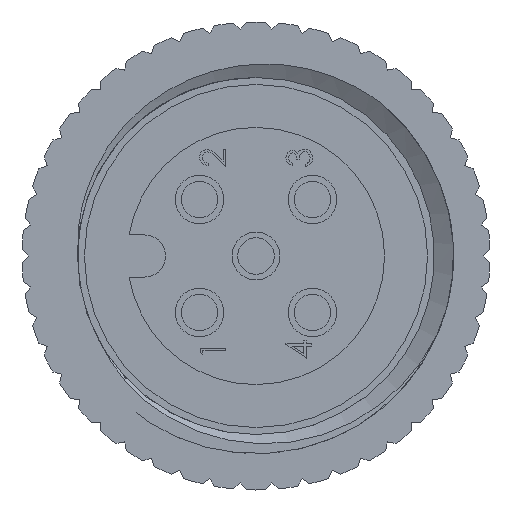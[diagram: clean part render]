
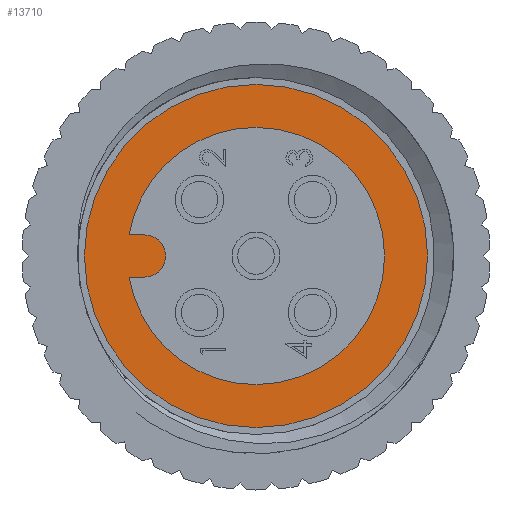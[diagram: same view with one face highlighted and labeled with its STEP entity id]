
A CAD part, left-side view. The second image highlights one B-rep face of the part: STEP entity #13710.
In plain terms, the highlighted planar face has unit normal (-1, 0, 0).
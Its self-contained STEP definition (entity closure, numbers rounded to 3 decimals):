
#1564 = AXIS2_PLACEMENT_3D ( 'NONE', #2381, #2382, #2383 ) ;
#2355 = FACE_OUTER_BOUND ( 'NONE', #10263, .T. ) ;
#2370 = FACE_BOUND ( 'NONE', #10267, .T. ) ;
#2372 = PLANE ( 'NONE',  #1564 ) ;
#2381 = CARTESIAN_POINT ( 'NONE',  ( 8.509, 0., 0. ) ) ;
#2382 = DIRECTION ( 'NONE',  ( -1., 0., 0. ) ) ;
#2383 = DIRECTION ( 'NONE',  ( 0., 0., 1. ) ) ;
#4301 = CARTESIAN_POINT ( 'NONE',  ( 8.509, 0., 5.372 ) ) ;
#4383 = CARTESIAN_POINT ( 'NONE',  ( 8.509, 3.493, -0.66 ) ) ;
#4409 = CARTESIAN_POINT ( 'NONE',  ( 8.509, 3.493, 0.66 ) ) ;
#4410 = CARTESIAN_POINT ( 'NONE',  ( 8.509, 3.971, 0.66 ) ) ;
#5386 = VERTEX_POINT ( 'NONE', #6395 ) ;
#5393 = VERTEX_POINT ( 'NONE', #6399 ) ;
#5395 = VERTEX_POINT ( 'NONE', #6400 ) ;
#6104 = EDGE_CURVE ( 'NONE', #13140, #7108, #11171, .T. ) ;
#6105 = EDGE_CURVE ( 'NONE', #5395, #10480, #9468, .T. ) ;
#6106 = EDGE_CURVE ( 'NONE', #10480, #10521, #11173, .T. ) ;
#6107 = EDGE_CURVE ( 'NONE', #10521, #10523, #9480, .T. ) ;
#6108 = EDGE_CURVE ( 'NONE', #5386, #10523, #11036, .T. ) ;
#6395 = CARTESIAN_POINT ( 'NONE',  ( 8.509, 0., 4.026 ) ) ;
#6399 = CARTESIAN_POINT ( 'NONE',  ( 8.509, 0., -4.026 ) ) ;
#6400 = CARTESIAN_POINT ( 'NONE',  ( 8.509, 3.971, -0.66 ) ) ;
#7108 = VERTEX_POINT ( 'NONE', #4301 ) ;
#8509 = CIRCLE ( 'NONE', #8511, 4.026 ) ;
#8511 = AXIS2_PLACEMENT_3D ( 'NONE', #9489, #9492, #9494 ) ;
#8516 = CIRCLE ( 'NONE', #8518, 4.026 ) ;
#8518 = AXIS2_PLACEMENT_3D ( 'NONE', #9553, #9555, #9558 ) ;
#8565 = CIRCLE ( 'NONE', #8566, 5.372 ) ;
#8566 = AXIS2_PLACEMENT_3D ( 'NONE', #9845, #9847, #9849 ) ;
#9454 = CARTESIAN_POINT ( 'NONE',  ( 8.509, 3.493, -0.66 ) ) ;
#9460 = CARTESIAN_POINT ( 'NONE',  ( 8.509, 3.493, 0.66 ) ) ;
#9468 = LINE ( 'NONE', #9454, #11172 ) ;
#9471 = CARTESIAN_POINT ( 'NONE',  ( 8.509, 0., 0. ) ) ;
#9474 = DIRECTION ( 'NONE',  ( -1., 0., 0. ) ) ;
#9478 = DIRECTION ( 'NONE',  ( 0., 0., 1. ) ) ;
#9480 = LINE ( 'NONE', #9460, #11034 ) ;
#9484 = DIRECTION ( 'NONE',  ( 0., -1., 0. ) ) ;
#9489 = CARTESIAN_POINT ( 'NONE',  ( 8.509, 0., 0. ) ) ;
#9492 = DIRECTION ( 'NONE',  ( -1., 0., 0. ) ) ;
#9494 = DIRECTION ( 'NONE',  ( 0., 0., 1. ) ) ;
#9495 = CARTESIAN_POINT ( 'NONE',  ( 8.509, 3.493, 0. ) ) ;
#9498 = DIRECTION ( 'NONE',  ( -1., 0., 0. ) ) ;
#9500 = DIRECTION ( 'NONE',  ( 0., 0., 1. ) ) ;
#9504 = DIRECTION ( 'NONE',  ( 0., 1., 0. ) ) ;
#9515 = CARTESIAN_POINT ( 'NONE',  ( 8.509, 0., 0. ) ) ;
#9519 = DIRECTION ( 'NONE',  ( -1., 0., 0. ) ) ;
#9523 = DIRECTION ( 'NONE',  ( 0., 0., 1. ) ) ;
#9553 = CARTESIAN_POINT ( 'NONE',  ( 8.509, 0., 0. ) ) ;
#9555 = DIRECTION ( 'NONE',  ( -1., 0., 0. ) ) ;
#9558 = DIRECTION ( 'NONE',  ( 0., 0., 1. ) ) ;
#9845 = CARTESIAN_POINT ( 'NONE',  ( 8.509, 0., 0. ) ) ;
#9847 = DIRECTION ( 'NONE',  ( -1., 0., 0. ) ) ;
#9849 = DIRECTION ( 'NONE',  ( 0., 0., 1. ) ) ;
#10263 = EDGE_LOOP ( 'NONE', ( #14919, #14918 ) ) ;
#10267 = EDGE_LOOP ( 'NONE', ( #14925, #14924, #14923, #14922, #14921, #14920 ) ) ;
#10480 = VERTEX_POINT ( 'NONE', #4383 ) ;
#10521 = VERTEX_POINT ( 'NONE', #4409 ) ;
#10523 = VERTEX_POINT ( 'NONE', #4410 ) ;
#11034 = VECTOR ( 'NONE', #9504, 1000. ) ;
#11035 = AXIS2_PLACEMENT_3D ( 'NONE', #9495, #9498, #9500 ) ;
#11036 = CIRCLE ( 'NONE', #11038, 4.026 ) ;
#11038 = AXIS2_PLACEMENT_3D ( 'NONE', #9515, #9519, #9523 ) ;
#11171 = CIRCLE ( 'NONE', #11174, 5.372 ) ;
#11172 = VECTOR ( 'NONE', #9484, 1000. ) ;
#11173 = CIRCLE ( 'NONE', #11035, 0.66 ) ;
#11174 = AXIS2_PLACEMENT_3D ( 'NONE', #9471, #9474, #9478 ) ;
#13140 = VERTEX_POINT ( 'NONE', #15866 ) ;
#13491 = EDGE_CURVE ( 'NONE', #5395, #5393, #8509, .T. ) ;
#13497 = EDGE_CURVE ( 'NONE', #5393, #5386, #8516, .T. ) ;
#13528 = EDGE_CURVE ( 'NONE', #7108, #13140, #8565, .T. ) ;
#13710 = ADVANCED_FACE ( 'NONE', ( #2370, #2355 ), #2372, .T. ) ;
#14918 = ORIENTED_EDGE ( 'NONE', *, *, #6104, .T. ) ;
#14919 = ORIENTED_EDGE ( 'NONE', *, *, #13528, .T. ) ;
#14920 = ORIENTED_EDGE ( 'NONE', *, *, #13497, .F. ) ;
#14921 = ORIENTED_EDGE ( 'NONE', *, *, #6108, .F. ) ;
#14922 = ORIENTED_EDGE ( 'NONE', *, *, #6107, .T. ) ;
#14923 = ORIENTED_EDGE ( 'NONE', *, *, #6106, .T. ) ;
#14924 = ORIENTED_EDGE ( 'NONE', *, *, #6105, .T. ) ;
#14925 = ORIENTED_EDGE ( 'NONE', *, *, #13491, .F. ) ;
#15866 = CARTESIAN_POINT ( 'NONE',  ( 8.509, 0., -5.372 ) ) ;
